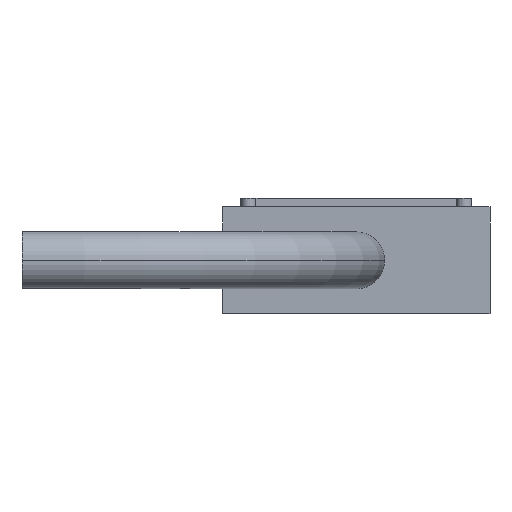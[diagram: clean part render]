
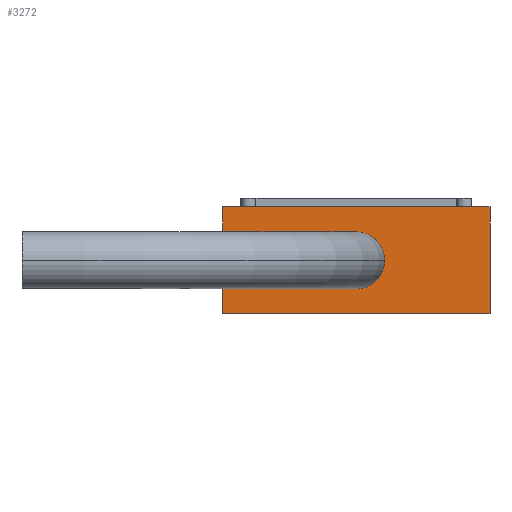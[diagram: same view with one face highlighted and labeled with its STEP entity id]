
A CAD part, front view. The second image highlights one B-rep face of the part: STEP entity #3272.
In plain terms, the highlighted planar face has unit normal (0, -1, 0).
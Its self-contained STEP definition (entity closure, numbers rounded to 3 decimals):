
#17 = AXIS2_PLACEMENT_3D ( 'NONE', #2023, #2048, #2049 ) ;
#23 = VECTOR ( 'NONE', #2047, 1000. ) ;
#191 = CARTESIAN_POINT ( 'NONE',  ( 0., 0., 0. ) ) ;
#192 = DIRECTION ( 'NONE',  ( 0., -1., 0. ) ) ;
#193 = DIRECTION ( 'NONE',  ( 0., 0., -1. ) ) ;
#860 = PLANE ( 'NONE',  #2437 ) ;
#861 = CARTESIAN_POINT ( 'NONE',  ( 0., 0., 0. ) ) ;
#862 = DIRECTION ( 'NONE',  ( 0., -1., 0. ) ) ;
#863 = DIRECTION ( 'NONE',  ( 0., 0., -1. ) ) ;
#1904 = LINE ( 'NONE', #1905, #4840 ) ;
#1905 = CARTESIAN_POINT ( 'NONE',  ( -20., 0., -8. ) ) ;
#1906 = DIRECTION ( 'NONE',  ( -1., 0., 0. ) ) ;
#1919 = LINE ( 'NONE', #1920, #4736 ) ;
#1920 = CARTESIAN_POINT ( 'NONE',  ( -20., 0., 8. ) ) ;
#1921 = DIRECTION ( 'NONE',  ( 1., 0., 0. ) ) ;
#2023 = CARTESIAN_POINT ( 'NONE',  ( 0., 0., 0. ) ) ;
#2042 = LINE ( 'NONE', #2043, #4849 ) ;
#2043 = CARTESIAN_POINT ( 'NONE',  ( 20., 0., 8. ) ) ;
#2044 = DIRECTION ( 'NONE',  ( 0., 0., -1. ) ) ;
#2045 = LINE ( 'NONE', #2046, #23 ) ;
#2046 = CARTESIAN_POINT ( 'NONE',  ( -20., 0., 8. ) ) ;
#2047 = DIRECTION ( 'NONE',  ( 0., 0., 1. ) ) ;
#2048 = DIRECTION ( 'NONE',  ( 0., -1., 0. ) ) ;
#2049 = DIRECTION ( 'NONE',  ( 0., 0., -1. ) ) ;
#2255 = CARTESIAN_POINT ( 'NONE',  ( 20., 0., -8. ) ) ;
#2256 = CARTESIAN_POINT ( 'NONE',  ( -20., 0., -8. ) ) ;
#2259 = CARTESIAN_POINT ( 'NONE',  ( -20., 0., 8. ) ) ;
#2260 = CARTESIAN_POINT ( 'NONE',  ( 20., 0., 8. ) ) ;
#2296 = CARTESIAN_POINT ( 'NONE',  ( -4.25, 0., 0. ) ) ;
#2297 = CARTESIAN_POINT ( 'NONE',  ( 4.25, 0., 0. ) ) ;
#2437 = AXIS2_PLACEMENT_3D ( 'NONE', #861, #862, #863 ) ;
#2657 = FACE_OUTER_BOUND ( 'NONE', #3772, .T. ) ;
#2718 = AXIS2_PLACEMENT_3D ( 'NONE', #191, #192, #193 ) ;
#2741 = FACE_BOUND ( 'NONE', #3771, .T. ) ;
#2945 = EDGE_CURVE ( 'NONE', #4676, #4675, #2947, .T. ) ;
#2947 = CIRCLE ( 'NONE', #2718, 4.25 ) ;
#3009 = CIRCLE ( 'NONE', #17, 4.25 ) ;
#3272 = ADVANCED_FACE ( 'NONE', ( #2741, #2657 ), #860, .T. ) ;
#3547 = EDGE_CURVE ( 'NONE', #4634, #4635, #1904, .T. ) ;
#3552 = EDGE_CURVE ( 'NONE', #4638, #4639, #1919, .T. ) ;
#3593 = EDGE_CURVE ( 'NONE', #4639, #4634, #2042, .T. ) ;
#3594 = EDGE_CURVE ( 'NONE', #4635, #4638, #2045, .T. ) ;
#3595 = EDGE_CURVE ( 'NONE', #4675, #4676, #3009, .T. ) ;
#3771 = EDGE_LOOP ( 'NONE', ( #4384, #4386 ) ) ;
#3772 = EDGE_LOOP ( 'NONE', ( #4383, #4387, #4388, #4385 ) ) ;
#4383 = ORIENTED_EDGE ( 'NONE', *, *, #3593, .F. ) ;
#4384 = ORIENTED_EDGE ( 'NONE', *, *, #3595, .F. ) ;
#4385 = ORIENTED_EDGE ( 'NONE', *, *, #3547, .F. ) ;
#4386 = ORIENTED_EDGE ( 'NONE', *, *, #2945, .F. ) ;
#4387 = ORIENTED_EDGE ( 'NONE', *, *, #3552, .F. ) ;
#4388 = ORIENTED_EDGE ( 'NONE', *, *, #3594, .F. ) ;
#4634 = VERTEX_POINT ( 'NONE', #2255 ) ;
#4635 = VERTEX_POINT ( 'NONE', #2256 ) ;
#4638 = VERTEX_POINT ( 'NONE', #2259 ) ;
#4639 = VERTEX_POINT ( 'NONE', #2260 ) ;
#4675 = VERTEX_POINT ( 'NONE', #2296 ) ;
#4676 = VERTEX_POINT ( 'NONE', #2297 ) ;
#4736 = VECTOR ( 'NONE', #1921, 1000. ) ;
#4840 = VECTOR ( 'NONE', #1906, 1000. ) ;
#4849 = VECTOR ( 'NONE', #2044, 1000. ) ;
